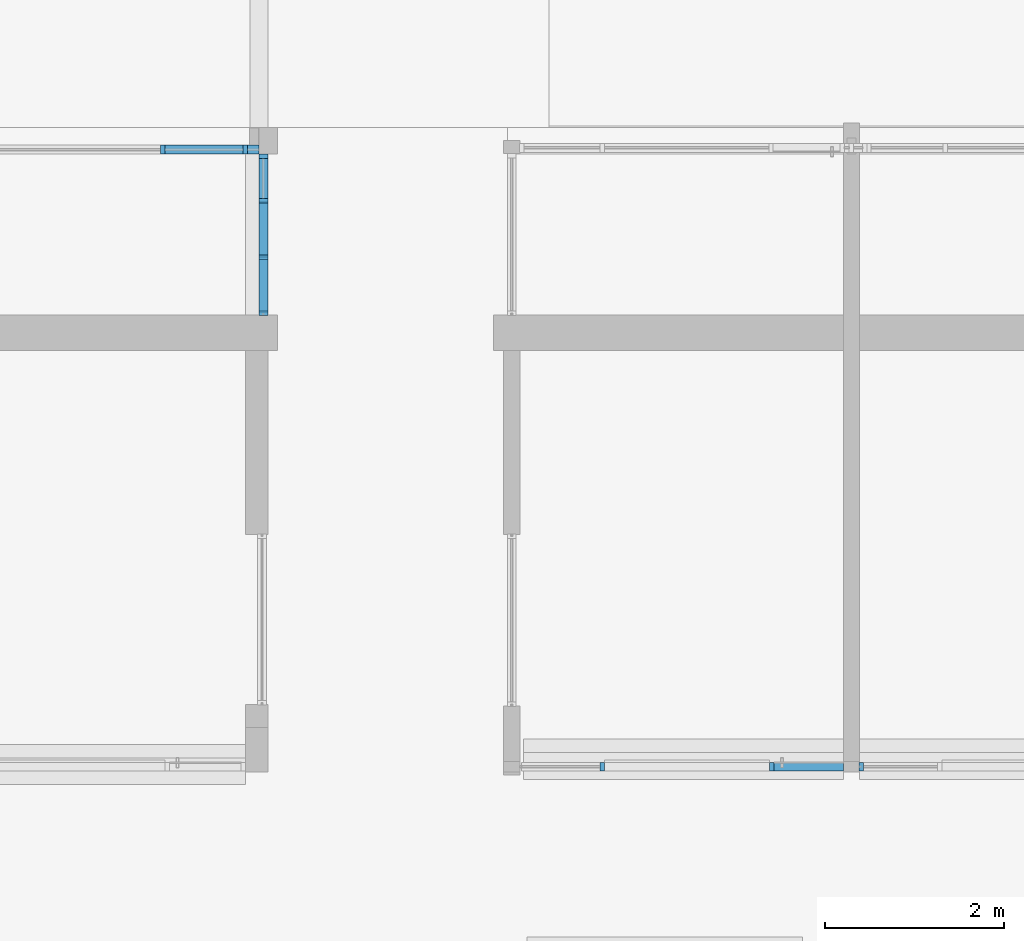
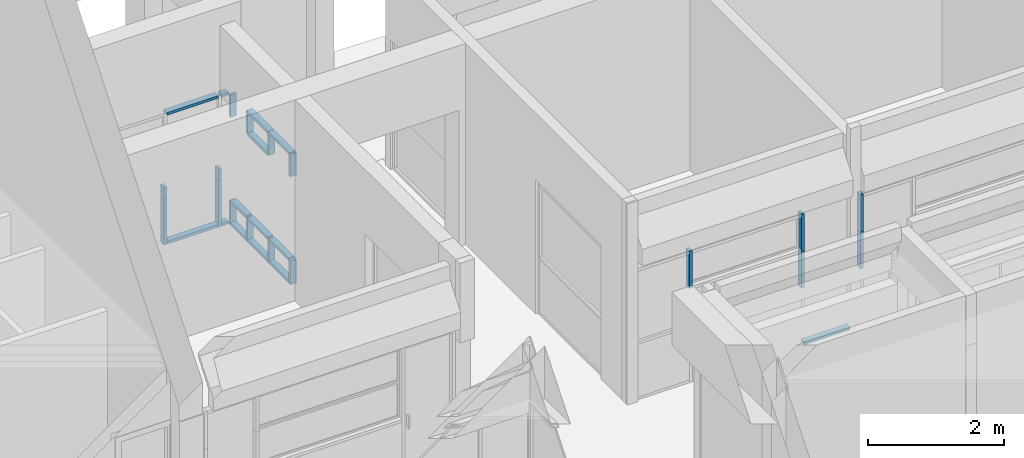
# One storey, part 18 of 117: 31 members, 4 elements without a shape of their own.
"""IFC4 building model written with IfcOpenShell, lengths in metres."""

from ifc_helpers import new_model, entity, si_unit, converted_unit, derived_unit, direction, frame, origin, place, context, subcontext, project, spatial, indexed_curve, outline, extrude, source, transform, mapped, material, type_object, type_shapes, element, aggregate, save


model = new_model("IFC4")

# Units and contexts
model_context = context("Model", 3, precision=1e-05, world=origin(), true_north=direction((6.123031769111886e-17, 1.0)))
body_context = subcontext(model_context, "Body", "Model", "MODEL_VIEW")
ifc_project = project(units=[si_unit("LENGTHUNIT", "METRE"), si_unit("AREAUNIT", "SQUARE_METRE"), si_unit("VOLUMEUNIT", "CUBIC_METRE"), converted_unit("PLANEANGLEUNIT", "DEGREE", entity("IfcRatioMeasure", 0.017453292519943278), si_unit("PLANEANGLEUNIT", "RADIAN"), dimensions=[0, 0, 0, 0, 0, 0, 0]), si_unit("MASSUNIT", "GRAM", prefix="KILO"), derived_unit("MASSDENSITYUNIT", [(si_unit("MASSUNIT", "GRAM", prefix="KILO"), 1), (si_unit("LENGTHUNIT", "METRE"), -3)]), derived_unit("MOMENTOFINERTIAUNIT", [(si_unit("LENGTHUNIT", "METRE"), 4)]), si_unit("TIMEUNIT", "SECOND"), si_unit("FREQUENCYUNIT", "HERTZ"), si_unit("THERMODYNAMICTEMPERATUREUNIT", "DEGREE_CELSIUS"), derived_unit("THERMALTRANSMITTANCEUNIT", [(si_unit("MASSUNIT", "GRAM", prefix="KILO"), 1), (si_unit("THERMODYNAMICTEMPERATUREUNIT", "KELVIN"), -1), (si_unit("TIMEUNIT", "SECOND"), -3)]), derived_unit("VOLUMETRICFLOWRATEUNIT", [(si_unit("LENGTHUNIT", "METRE"), 3), (si_unit("TIMEUNIT", "SECOND"), -1)]), derived_unit("MASSFLOWRATEUNIT", [(si_unit("MASSUNIT", "GRAM", prefix="KILO"), 1), (si_unit("TIMEUNIT", "SECOND"), -1)]), derived_unit("ROTATIONALFREQUENCYUNIT", [(si_unit("TIMEUNIT", "SECOND"), -1)]), si_unit("ELECTRICCURRENTUNIT", "AMPERE"), si_unit("ELECTRICVOLTAGEUNIT", "VOLT"), si_unit("POWERUNIT", "WATT"), si_unit("FORCEUNIT", "NEWTON", prefix="KILO"), si_unit("ILLUMINANCEUNIT", "LUX"), si_unit("LUMINOUSFLUXUNIT", "LUMEN"), si_unit("LUMINOUSINTENSITYUNIT", "CANDELA"), derived_unit("USERDEFINED", [(si_unit("MASSUNIT", "GRAM", prefix="KILO"), -1), (si_unit("LENGTHUNIT", "METRE"), -2), (si_unit("TIMEUNIT", "SECOND"), 3), (si_unit("LUMINOUSFLUXUNIT", "LUMEN"), 1)]), derived_unit("SOUNDPOWERUNIT", [(si_unit("MASSUNIT", "GRAM", prefix="KILO"), 1), (si_unit("LENGTHUNIT", "METRE"), 2), (si_unit("TIMEUNIT", "SECOND"), -3)]), derived_unit("SOUNDPRESSUREUNIT", [(si_unit("MASSUNIT", "GRAM", prefix="KILO"), 1), (si_unit("LENGTHUNIT", "METRE"), -1), (si_unit("TIMEUNIT", "SECOND"), -2)]), derived_unit("LINEARVELOCITYUNIT", [(si_unit("LENGTHUNIT", "METRE"), 1), (si_unit("TIMEUNIT", "SECOND"), -1)]), si_unit("PRESSUREUNIT", "PASCAL"), derived_unit("USERDEFINED", [(si_unit("LENGTHUNIT", "METRE"), -2), (si_unit("MASSUNIT", "GRAM", prefix="KILO"), 1), (si_unit("TIMEUNIT", "SECOND"), -2)]), derived_unit("LINEARFORCEUNIT", [(si_unit("MASSUNIT", "GRAM", prefix="KILO"), 1), (si_unit("LENGTHUNIT", "METRE"), 1), (si_unit("TIMEUNIT", "SECOND"), -2), (si_unit("LENGTHUNIT", "METRE"), -1)]), derived_unit("PLANARFORCEUNIT", [(si_unit("MASSUNIT", "GRAM", prefix="KILO"), 1), (si_unit("LENGTHUNIT", "METRE"), 1), (si_unit("TIMEUNIT", "SECOND"), -2), (si_unit("LENGTHUNIT", "METRE"), -2)])], contexts=[model_context])

# Site, building, storey
site_placement = place(None, origin())
site = spatial("IfcSite", under=ifc_project, at=site_placement, Name="Superficie", CompositionType="ELEMENT")
building_placement = place(site_placement, origin())
building = spatial("IfcBuilding", under=site, at=building_placement, CompositionType="ELEMENT")
storey_placement = place(building_placement, origin())
storey = spatial("IfcBuildingStorey", under=building, at=storey_placement, Name="Nivel 0", CompositionType="ELEMENT", Elevation=0.0)

# Curtain wall, members
curtain_wall_type = type_object("IfcCurtainWallType", Name="Muro cortina:Muro cortina - simple", PredefinedType="NOTDEFINED")
curtain_wall_1_placement = place(storey_placement, origin())
curtain_wall_1 = element("IfcCurtainWall", 1, at=curtain_wall_1_placement, inside=storey, type_object=curtain_wall_type, Name="Muro cortina:Muro cortina - simple", ObjectType="Muro cortina:Muro cortina - simple", PredefinedType="NOTDEFINED")
ifc_material = material(Name="<Unnamed>")
member_type_1 = type_object("IfcMemberType", Name="Montante rectangular:Montante rectangular - 5 x 10 cm", PredefinedType="MULLION", material=ifc_material)
shared_shape_1 = source(origin(), body_context, "Body", "SweptSolid", [
    extrude(outline(indexed_curve([(-0.05, -0.025), (0.05, -0.025), (0.05, 0.025), (-0.05, 0.025), (-0.05, -0.025)], self_intersect=False)), frame((0.0, 0.0, -0.6649999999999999), z_axis=(0.0, 0.0, 1.0), x_axis=(0.0, -1.0, 0.0)), (0.0, 0.0, 1.0), 0.6649999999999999),
])
type_shapes(member_type_1, [shared_shape_1])
member_1_placement = place(curtain_wall_1_placement, frame((-12.50320098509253, 5.7158292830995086, 1.0200000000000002), z_axis=(0.0, 0.0, -1.0), x_axis=(1.0, 0.0, 0.0)))
member_1 = element("IfcMember", 2, at=member_1_placement, type_object=member_type_1, material=ifc_material, Name="Montante rectangular:Montante rectangular - 5 x 10 cm", ObjectType="Montante rectangular:Montante rectangular - 5 x 10 cm", PredefinedType="MULLION", context=body_context, shape_type="MappedRepresentation", body=[
    mapped(shared_shape_1, transform((0.0, 0.0, 0.0), scale=1.0)),
])
member_type_2 = type_object("IfcMemberType", Name="Montante rectangular:Montante rectangular - 5 x 10 cm", PredefinedType="MULLION", material=ifc_material)
shared_shape_2 = source(origin(), body_context, "Body", "SweptSolid", [
    extrude(outline(indexed_curve([(-0.05, -0.025), (0.05, -0.025), (0.05, 0.025), (-0.05, 0.025), (-0.05, -0.025)], self_intersect=False)), frame((0.0, 0.0, -0.6649999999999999), z_axis=(0.0, 0.0, 1.0), x_axis=(0.0, -1.0, 0.0)), (0.0, 0.0, 1.0), 0.6649999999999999),
])
type_shapes(member_type_2, [shared_shape_2])
member_2_placement = place(curtain_wall_1_placement, frame((-14.403200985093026, 5.715829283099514, 1.685), z_axis=(0.0, 0.0, -1.0), x_axis=(1.0, 0.0, 0.0)))
member_2 = element("IfcMember", 3, at=member_2_placement, type_object=member_type_2, material=ifc_material, Name="Montante rectangular:Montante rectangular - 5 x 10 cm", ObjectType="Montante rectangular:Montante rectangular - 5 x 10 cm", PredefinedType="MULLION", context=body_context, shape_type="MappedRepresentation", body=[
    mapped(shared_shape_2, transform((0.0, 0.0, 0.0), scale=1.0)),
])
member_3_placement = place(curtain_wall_1_placement, frame((-12.50320098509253, 5.7158292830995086, 1.685), z_axis=(0.0, 0.0, -1.0), x_axis=(1.0, 0.0, 0.0)))
member_3 = element("IfcMember", 4, at=member_3_placement, type_object=member_type_2, material=ifc_material, Name="Montante rectangular:Montante rectangular - 5 x 10 cm", ObjectType="Montante rectangular:Montante rectangular - 5 x 10 cm", PredefinedType="MULLION", context=body_context, shape_type="MappedRepresentation", body=[
    mapped(shared_shape_2, transform((0.0, 0.0, 0.0), scale=1.0)),
])
member_type_3 = type_object("IfcMemberType", Name="Montante rectangular:Montante rectangular - 5 x 10 cm", PredefinedType="MULLION", material=ifc_material)
shared_shape_3 = source(origin(), body_context, "Body", "SweptSolid", [
    extrude(outline(indexed_curve([(-0.05, -0.025), (0.05, -0.025), (0.05, 0.025), (-0.05, 0.025), (-0.05, -0.025)], self_intersect=False)), frame((0.0, 0.0, -0.7749999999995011), z_axis=(0.0, 0.0, 1.0), x_axis=(0.0, -1.0, 0.0)), (0.0, 0.0, 1.0), 0.7749999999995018),
])
type_shapes(member_type_3, [shared_shape_3])
member_4_placement = place(curtain_wall_1_placement, frame((-11.703200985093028, 5.715829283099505, 0.019999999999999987), z_axis=(1.0, 0.0, 0.0), x_axis=(0.0, 0.0, 1.0)))
member_4 = element("IfcMember", 5, at=member_4_placement, type_object=member_type_3, material=ifc_material, Name="Montante rectangular:Montante rectangular - 5 x 10 cm", ObjectType="Montante rectangular:Montante rectangular - 5 x 10 cm", PredefinedType="MULLION", context=body_context, shape_type="MappedRepresentation", body=[
    mapped(shared_shape_3, transform((0.0, 0.0, 0.0), scale=1.0)),
])
aggregate(curtain_wall_1, [member_4, member_2, member_3, member_1])

curtain_wall_2_placement = place(storey_placement, origin())
curtain_wall_2 = element("IfcCurtainWall", 6, at=curtain_wall_2_placement, inside=storey, type_object=curtain_wall_type, Name="Muro cortina:Muro cortina - simple", ObjectType="Muro cortina:Muro cortina - simple", PredefinedType="NOTDEFINED")
member_type_4 = type_object("IfcMemberType", Name="Montante rectangular:Montante rectangular - 5 x 10 cm", PredefinedType="MULLION", material=ifc_material)
shared_shape_4 = source(origin(), body_context, "Body", "SweptSolid", [
    extrude(outline(indexed_curve([(-0.05, -0.025), (0.05, -0.025), (0.05, 0.025), (-0.05, 0.025), (-0.05, -0.025)], self_intersect=False)), frame((0.0, 0.0, -0.6649999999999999), z_axis=(0.0, 0.0, 1.0), x_axis=(0.0, -1.0, 0.0)), (0.0, 0.0, 1.0), 0.6649999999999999),
])
type_shapes(member_type_4, [shared_shape_4])
member_5_placement = place(curtain_wall_2_placement, frame((-11.503200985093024, 5.715829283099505, 1.685), z_axis=(0.0, 0.0, -1.0), x_axis=(1.0, 0.0, 0.0)))
member_5 = element("IfcMember", 7, at=member_5_placement, type_object=member_type_4, material=ifc_material, Name="Montante rectangular:Montante rectangular - 5 x 10 cm", ObjectType="Montante rectangular:Montante rectangular - 5 x 10 cm", PredefinedType="MULLION", context=body_context, shape_type="MappedRepresentation", body=[
    mapped(shared_shape_4, transform((0.0, 0.0, 0.0), scale=1.0)),
])
member_type_5 = type_object("IfcMemberType", Name="Montante rectangular:Montante rectangular - 5 x 10 cm", PredefinedType="MULLION", material=ifc_material)
shared_shape_5 = source(origin(), body_context, "Body", "SweptSolid", [
    extrude(outline(indexed_curve([(-0.05, -0.025), (0.05, -0.025), (0.05, 0.025), (-0.05, 0.025), (-0.05, -0.025)], self_intersect=False)), frame((0.0, 0.0, -0.6649999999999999), z_axis=(0.0, 0.0, 1.0), x_axis=(0.0, -1.0, 0.0)), (0.0, 0.0, 1.0), 0.6649999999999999),
])
type_shapes(member_type_5, [shared_shape_5])
member_6_placement = place(curtain_wall_2_placement, frame((-11.503200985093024, 5.715829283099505, 1.0200000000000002), z_axis=(0.0, 0.0, -1.0), x_axis=(1.0, 0.0, 0.0)))
member_6 = element("IfcMember", 8, at=member_6_placement, type_object=member_type_5, material=ifc_material, Name="Montante rectangular:Montante rectangular - 5 x 10 cm", ObjectType="Montante rectangular:Montante rectangular - 5 x 10 cm", PredefinedType="MULLION", context=body_context, shape_type="MappedRepresentation", body=[
    mapped(shared_shape_5, transform((0.0, 0.0, 0.0), scale=1.0)),
])
aggregate(curtain_wall_2, [member_5, member_6])

# Curtain wall, member
curtain_wall_3_placement = place(storey_placement, origin())
curtain_wall_3 = element("IfcCurtainWall", 9, at=curtain_wall_3_placement, inside=storey, type_object=curtain_wall_type, Name="Muro cortina:Muro cortina - simple", ObjectType="Muro cortina:Muro cortina - simple", PredefinedType="NOTDEFINED")
member_type_6 = type_object("IfcMemberType", Name="Montante rectangular:Montante rectangular - 5 x 10 cm", PredefinedType="MULLION", material=ifc_material)
shared_shape_6 = source(origin(), body_context, "Body", "SweptSolid", [
    extrude(outline(indexed_curve([(-0.05, -0.025), (0.05, -0.025), (0.05, 0.025), (-0.05, 0.025), (-0.05, -0.025)], self_intersect=False)), frame((0.0, 0.0, -0.19999999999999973), z_axis=(0.0, 0.0, 1.0), x_axis=(0.0, -1.0, 0.0)), (0.0, 0.0, 1.0), 0.19999999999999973),
])
type_shapes(member_type_6, [shared_shape_6])
member_7_placement = place(curtain_wall_3_placement, frame((-19.318200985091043, 12.62082928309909, 0.8299999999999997), z_axis=(0.0, 0.0, -1.0), x_axis=(-1.0, 0.0, 0.0)))
member_7 = element("IfcMember", 10, at=member_7_placement, type_object=member_type_6, material=ifc_material, Name="Montante rectangular:Montante rectangular - 5 x 10 cm", ObjectType="Montante rectangular:Montante rectangular - 5 x 10 cm", PredefinedType="MULLION", context=body_context, shape_type="MappedRepresentation", body=[
    mapped(shared_shape_6, transform((0.0, 0.0, 0.0), scale=1.0)),
])

# Curtain wall, members
curtain_wall_4_placement = place(storey_placement, origin())
curtain_wall_4 = element("IfcCurtainWall", 11, at=curtain_wall_4_placement, inside=storey, type_object=curtain_wall_type, Name="Muro cortina:Muro cortina - simple", ObjectType="Muro cortina:Muro cortina - simple", PredefinedType="NOTDEFINED")
member_type_7 = type_object("IfcMemberType", Name="Montante rectangular:Montante rectangular - 5 x 10 cm", PredefinedType="MULLION", material=ifc_material)
shared_shape_7 = source(origin(), body_context, "Body", "SweptSolid", [
    extrude(outline(indexed_curve([(-0.05, -0.025), (0.05, -0.025), (0.05, 0.025), (-0.05, 0.025), (-0.05, -0.025)], self_intersect=False)), frame((0.0, 0.0, -0.4250000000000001), z_axis=(0.0, 0.0, 1.0), x_axis=(0.0, -1.0, 0.0)), (0.0, 0.0, 1.0), 0.4250000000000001),
])
type_shapes(member_type_7, [shared_shape_7])
member_8_placement = place(curtain_wall_4_placement, frame((-18.193200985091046, 10.790829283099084, -0.005000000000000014), z_axis=(0.0, 0.0, -1.0), x_axis=(0.0, 1.0, 0.0)))
member_8 = element("IfcMember", 12, at=member_8_placement, type_object=member_type_7, material=ifc_material, Name="Montante rectangular:Montante rectangular - 5 x 10 cm", ObjectType="Montante rectangular:Montante rectangular - 5 x 10 cm", PredefinedType="MULLION", context=body_context, shape_type="MappedRepresentation", body=[
    mapped(shared_shape_7, transform((0.0, 0.0, 0.0), scale=1.0)),
])
member_9_placement = place(curtain_wall_4_placement, frame((-18.193200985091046, 11.419039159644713, -0.005000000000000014), z_axis=(0.0, 0.0, -1.0), x_axis=(0.0, 1.0, 0.0)))
member_9 = element("IfcMember", 13, at=member_9_placement, type_object=member_type_7, material=ifc_material, Name="Montante rectangular:Montante rectangular - 5 x 10 cm", ObjectType="Montante rectangular:Montante rectangular - 5 x 10 cm", PredefinedType="MULLION", context=body_context, shape_type="MappedRepresentation", body=[
    mapped(shared_shape_7, transform((0.0, 0.0, 0.0), scale=1.0)),
])
member_10_placement = place(curtain_wall_4_placement, frame((-18.193200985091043, 12.047249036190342, -0.005000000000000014), z_axis=(0.0, 0.0, -1.0), x_axis=(0.0, 1.0, 0.0)))
member_10 = element("IfcMember", 14, at=member_10_placement, type_object=member_type_7, material=ifc_material, Name="Montante rectangular:Montante rectangular - 5 x 10 cm", ObjectType="Montante rectangular:Montante rectangular - 5 x 10 cm", PredefinedType="MULLION", context=body_context, shape_type="MappedRepresentation", body=[
    mapped(shared_shape_7, transform((0.0, 0.0, 0.0), scale=1.0)),
])
member_type_8 = type_object("IfcMemberType", Name="Montante rectangular:Montante rectangular - 5 x 10 cm", PredefinedType="MULLION", material=ifc_material)
shared_shape_8 = source(origin(), body_context, "Body", "SweptSolid", [
    extrude(outline(indexed_curve([(-0.05, -0.025), (0.05, -0.025), (0.05, 0.025), (-0.05, 0.025), (-0.05, -0.025)], self_intersect=False)), frame((0.0, 0.0, -0.5782098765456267), z_axis=(0.0, 0.0, 1.0), x_axis=(0.0, -1.0, 0.0)), (0.0, 0.0, 1.0), 0.5782098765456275),
])
type_shapes(member_type_8, [shared_shape_8])
member_11_placement = place(curtain_wall_4_placement, frame((-18.193200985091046, 11.394039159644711, 0.019999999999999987), z_axis=(0.0, 1.0, 0.0), x_axis=(0.0, 0.0, 1.0)))
member_11 = element("IfcMember", 15, at=member_11_placement, type_object=member_type_8, material=ifc_material, Name="Montante rectangular:Montante rectangular - 5 x 10 cm", ObjectType="Montante rectangular:Montante rectangular - 5 x 10 cm", PredefinedType="MULLION", context=body_context, shape_type="MappedRepresentation", body=[
    mapped(shared_shape_8, transform((0.0, 0.0, 0.0), scale=1.0)),
])
member_12_placement = place(curtain_wall_4_placement, frame((-18.193200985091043, 12.022249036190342, 0.019999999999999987), z_axis=(0.0, 1.0, 0.0), x_axis=(0.0, 0.0, 1.0)))
member_12 = element("IfcMember", 16, at=member_12_placement, type_object=member_type_8, material=ifc_material, Name="Montante rectangular:Montante rectangular - 5 x 10 cm", ObjectType="Montante rectangular:Montante rectangular - 5 x 10 cm", PredefinedType="MULLION", context=body_context, shape_type="MappedRepresentation", body=[
    mapped(shared_shape_8, transform((0.0, 0.0, 0.0), scale=1.0)),
])
member_13_placement = place(curtain_wall_4_placement, frame((-18.193200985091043, 12.022249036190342, 1.93), z_axis=(0.0, 1.0, 0.0), x_axis=(0.0, 0.0, 1.0)))
member_13 = element("IfcMember", 17, at=member_13_placement, type_object=member_type_8, material=ifc_material, Name="Montante rectangular:Montante rectangular - 5 x 10 cm", ObjectType="Montante rectangular:Montante rectangular - 5 x 10 cm", PredefinedType="MULLION", context=body_context, shape_type="MappedRepresentation", body=[
    mapped(shared_shape_8, transform((0.0, 0.0, 0.0), scale=1.0)),
])
member_14_placement = place(curtain_wall_4_placement, frame((-18.193200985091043, 12.022249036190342, 0.4200000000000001), z_axis=(0.0, 1.0, 0.0), x_axis=(0.0, 0.0, 1.0)))
member_14 = element("IfcMember", 18, at=member_14_placement, type_object=member_type_8, material=ifc_material, Name="Montante rectangular:Montante rectangular - 5 x 10 cm", ObjectType="Montante rectangular:Montante rectangular - 5 x 10 cm", PredefinedType="MULLION", context=body_context, shape_type="MappedRepresentation", body=[
    mapped(shared_shape_8, transform((0.0, 0.0, 0.0), scale=1.0)),
])
member_15_placement = place(curtain_wall_4_placement, frame((-18.193200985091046, 11.394039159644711, 0.4200000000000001), z_axis=(0.0, 1.0, 0.0), x_axis=(0.0, 0.0, 1.0)))
member_15 = element("IfcMember", 19, at=member_15_placement, type_object=member_type_8, material=ifc_material, Name="Montante rectangular:Montante rectangular - 5 x 10 cm", ObjectType="Montante rectangular:Montante rectangular - 5 x 10 cm", PredefinedType="MULLION", context=body_context, shape_type="MappedRepresentation", body=[
    mapped(shared_shape_8, transform((0.0, 0.0, 0.0), scale=1.0)),
])
member_type_9 = type_object("IfcMemberType", Name="Montante rectangular:Montante rectangular - 5 x 10 cm", PredefinedType="MULLION", material=ifc_material)
shared_shape_9 = source(origin(), body_context, "Body", "SweptSolid", [
    extrude(outline(indexed_curve([(-0.05, -0.025), (0.05, -0.025), (0.05, 0.025), (-0.05, 0.025), (-0.05, -0.025)], self_intersect=False)), frame((-0.025, 0.0, -0.4250000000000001), z_axis=(0.0, 0.0, 1.0), x_axis=(0.0, -1.0, 0.0)), (0.0, 0.0, 1.0), 0.4250000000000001),
])
type_shapes(member_type_9, [shared_shape_9])
member_16_placement = place(curtain_wall_4_placement, frame((-18.193200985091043, 12.570829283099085, -0.005000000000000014), z_axis=(0.0, 0.0, -1.0), x_axis=(0.0, 1.0, 0.0)))
member_16 = element("IfcMember", 20, at=member_16_placement, type_object=member_type_9, material=ifc_material, Name="Montante rectangular:Montante rectangular - 5 x 10 cm", ObjectType="Montante rectangular:Montante rectangular - 5 x 10 cm", PredefinedType="MULLION", context=body_context, shape_type="MappedRepresentation", body=[
    mapped(shared_shape_9, transform((0.0, 0.0, 0.0), scale=1.0)),
])
member_type_10 = type_object("IfcMemberType", Name="Montante rectangular:Montante rectangular - 5 x 10 cm", PredefinedType="MULLION", material=ifc_material)
shared_shape_10 = source(origin(), body_context, "Body", "SweptSolid", [
    extrude(outline(indexed_curve([(-0.05, -0.025), (0.05, -0.025), (0.05, 0.025), (-0.05, 0.025), (-0.05, -0.025)], self_intersect=False)), frame((-0.025, 0.0, -0.6282098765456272), z_axis=(0.0, 0.0, 1.0), x_axis=(0.0, -1.0, 0.0)), (0.0, 0.0, 1.0), 0.6282098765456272),
])
type_shapes(member_type_10, [shared_shape_10])
member_17_placement = place(curtain_wall_4_placement, frame((-18.193200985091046, 11.419039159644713, 2.35), z_axis=(0.0, 1.0, 0.0), x_axis=(0.0, 0.0, 1.0)))
member_17 = element("IfcMember", 21, at=member_17_placement, type_object=member_type_10, material=ifc_material, Name="Montante rectangular:Montante rectangular - 5 x 10 cm", ObjectType="Montante rectangular:Montante rectangular - 5 x 10 cm", PredefinedType="MULLION", context=body_context, shape_type="MappedRepresentation", body=[
    mapped(shared_shape_10, transform((0.0, 0.0, 0.0), scale=1.0)),
])
member_type_11 = type_object("IfcMemberType", Name="Montante rectangular:Montante rectangular - 5 x 10 cm", PredefinedType="MULLION", material=ifc_material)
shared_shape_11 = source(origin(), body_context, "Body", "SweptSolid", [
    extrude(outline(indexed_curve([(-0.05, -0.025), (0.05, -0.025), (0.05, 0.025), (-0.05, 0.025), (-0.05, -0.025)], self_intersect=False)), frame((-0.025, 0.0, -0.6282098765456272), z_axis=(0.0, 0.0, 1.0), x_axis=(0.0, -1.0, 0.0)), (0.0, 0.0, 1.0), 0.6282098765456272),
])
type_shapes(member_type_11, [shared_shape_11])
member_18_placement = place(curtain_wall_4_placement, frame((-18.193200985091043, 12.047249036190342, 2.35), z_axis=(0.0, 1.0, 0.0), x_axis=(0.0, 0.0, 1.0)))
member_18 = element("IfcMember", 22, at=member_18_placement, type_object=member_type_11, material=ifc_material, Name="Montante rectangular:Montante rectangular - 5 x 10 cm", ObjectType="Montante rectangular:Montante rectangular - 5 x 10 cm", PredefinedType="MULLION", context=body_context, shape_type="MappedRepresentation", body=[
    mapped(shared_shape_11, transform((0.0, 0.0, 0.0), scale=1.0)),
])
member_type_12 = type_object("IfcMemberType", Name="Montante rectangular:Montante rectangular - 5 x 10 cm", PredefinedType="MULLION", material=ifc_material)
shared_shape_12 = source(origin(), body_context, "Body", "SweptSolid", [
    extrude(outline(indexed_curve([(-0.05, -0.025), (0.05, -0.025), (0.05, 0.025), (-0.05, 0.025), (-0.05, -0.025)], self_intersect=False)), frame((0.0, 0.0, -0.44858024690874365), z_axis=(0.0, 0.0, 1.0), x_axis=(0.0, -1.0, 0.0)), (0.0, 0.0, 1.0), 0.44858024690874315),
])
type_shapes(member_type_12, [shared_shape_12])
member_19_placement = place(curtain_wall_4_placement, frame((-18.193200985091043, 12.520829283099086, 0.019999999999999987), z_axis=(0.0, 1.0, 0.0), x_axis=(0.0, 0.0, 1.0)))
member_19 = element("IfcMember", 23, at=member_19_placement, type_object=member_type_12, material=ifc_material, Name="Montante rectangular:Montante rectangular - 5 x 10 cm", ObjectType="Montante rectangular:Montante rectangular - 5 x 10 cm", PredefinedType="MULLION", context=body_context, shape_type="MappedRepresentation", body=[
    mapped(shared_shape_12, transform((0.0, 0.0, 0.0), scale=1.0)),
])
member_20_placement = place(curtain_wall_4_placement, frame((-18.193200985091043, 12.520829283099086, 0.4200000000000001), z_axis=(0.0, 1.0, 0.0), x_axis=(0.0, 0.0, 1.0)))
member_20 = element("IfcMember", 24, at=member_20_placement, type_object=member_type_12, material=ifc_material, Name="Montante rectangular:Montante rectangular - 5 x 10 cm", ObjectType="Montante rectangular:Montante rectangular - 5 x 10 cm", PredefinedType="MULLION", context=body_context, shape_type="MappedRepresentation", body=[
    mapped(shared_shape_12, transform((0.0, 0.0, 0.0), scale=1.0)),
])
member_type_13 = type_object("IfcMemberType", Name="Montante rectangular:Montante rectangular - 5 x 10 cm", PredefinedType="MULLION", material=ifc_material)
shared_shape_13 = source(origin(), body_context, "Body", "SweptSolid", [
    extrude(outline(indexed_curve([(-0.05, -0.025), (0.05, -0.025), (0.05, 0.025), (-0.05, 0.025), (-0.05, -0.025)], self_intersect=False)), frame((0.0, 0.0, -0.4), z_axis=(0.0, 0.0, 1.0), x_axis=(0.0, -1.0, 0.0)), (0.0, 0.0, 1.0), 0.4),
])
type_shapes(member_type_13, [shared_shape_13])
member_21_placement = place(curtain_wall_4_placement, frame((-18.193200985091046, 10.790829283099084, 1.93), z_axis=(0.0, 0.0, -1.0), x_axis=(0.0, 1.0, 0.0)))
member_21 = element("IfcMember", 25, at=member_21_placement, type_object=member_type_13, material=ifc_material, Name="Montante rectangular:Montante rectangular - 5 x 10 cm", ObjectType="Montante rectangular:Montante rectangular - 5 x 10 cm", PredefinedType="MULLION", context=body_context, shape_type="MappedRepresentation", body=[
    mapped(shared_shape_13, transform((0.0, 0.0, 0.0), scale=1.0)),
])
member_type_14 = type_object("IfcMemberType", Name="Montante rectangular:Montante rectangular - 5 x 10 cm", PredefinedType="MULLION", material=ifc_material)
shared_shape_14 = source(origin(), body_context, "Body", "SweptSolid", [
    extrude(outline(indexed_curve([(-0.05, -0.025), (0.05, -0.025), (0.05, 0.025), (-0.05, 0.025), (-0.05, -0.025)], self_intersect=False)), frame((-0.025, 0.0, -0.4), z_axis=(0.0, 0.0, 1.0), x_axis=(0.0, -1.0, 0.0)), (0.0, 0.0, 1.0), 0.4),
])
type_shapes(member_type_14, [shared_shape_14])
member_22_placement = place(curtain_wall_4_placement, frame((-18.193200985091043, 12.570829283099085, 1.93), z_axis=(0.0, 0.0, -1.0), x_axis=(0.0, 1.0, 0.0)))
member_22 = element("IfcMember", 26, at=member_22_placement, type_object=member_type_14, material=ifc_material, Name="Montante rectangular:Montante rectangular - 5 x 10 cm", ObjectType="Montante rectangular:Montante rectangular - 5 x 10 cm", PredefinedType="MULLION", context=body_context, shape_type="MappedRepresentation", body=[
    mapped(shared_shape_14, transform((0.0, 0.0, 0.0), scale=1.0)),
])
member_type_15 = type_object("IfcMemberType", Name="Montante rectangular:Montante rectangular - 5 x 10 cm", PredefinedType="MULLION", material=ifc_material)
shared_shape_15 = source(origin(), body_context, "Body", "SweptSolid", [
    extrude(outline(indexed_curve([(-0.05, -0.025), (0.05, -0.025), (0.05, 0.025), (-0.05, 0.025), (-0.05, -0.025)], self_intersect=False)), frame((0.0, 0.0, -0.4), z_axis=(0.0, 0.0, 1.0), x_axis=(0.0, -1.0, 0.0)), (0.0, 0.0, 1.0), 0.4),
])
type_shapes(member_type_15, [shared_shape_15])
member_23_placement = place(curtain_wall_4_placement, frame((-18.193200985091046, 11.419039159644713, 1.93), z_axis=(0.0, 0.0, -1.0), x_axis=(0.0, 1.0, 0.0)))
member_23 = element("IfcMember", 27, at=member_23_placement, type_object=member_type_15, material=ifc_material, Name="Montante rectangular:Montante rectangular - 5 x 10 cm", ObjectType="Montante rectangular:Montante rectangular - 5 x 10 cm", PredefinedType="MULLION", context=body_context, shape_type="MappedRepresentation", body=[
    mapped(shared_shape_15, transform((0.0, 0.0, 0.0), scale=1.0)),
])
member_24_placement = place(curtain_wall_4_placement, frame((-18.193200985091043, 12.047249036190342, 1.93), z_axis=(0.0, 0.0, -1.0), x_axis=(0.0, 1.0, 0.0)))
member_24 = element("IfcMember", 28, at=member_24_placement, type_object=member_type_15, material=ifc_material, Name="Montante rectangular:Montante rectangular - 5 x 10 cm", ObjectType="Montante rectangular:Montante rectangular - 5 x 10 cm", PredefinedType="MULLION", context=body_context, shape_type="MappedRepresentation", body=[
    mapped(shared_shape_15, transform((0.0, 0.0, 0.0), scale=1.0)),
])
aggregate(curtain_wall_4, [member_8, member_11, member_16, member_12, member_17, member_18, member_19, member_21, member_22, member_23, member_9, member_13, member_24, member_10, member_20, member_14, member_15])

# Member
member_type_16 = type_object("IfcMemberType", Name="Montante rectangular:Montante rectangular - 5 x 10 cm", PredefinedType="MULLION", material=ifc_material)
shared_shape_16 = source(origin(), body_context, "Body", "SweptSolid", [
    extrude(outline(indexed_curve([(-0.05, -0.025), (0.05, -0.025), (0.05, 0.025), (-0.05, 0.025), (-0.05, -0.025)], self_intersect=False)), frame((0.0, 0.0, -0.8750000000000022), z_axis=(0.0, 0.0, 1.0), x_axis=(0.0, -1.0, 0.0)), (0.0, 0.0, 1.0), 0.8750000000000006),
])
type_shapes(member_type_16, [shared_shape_16])
member_25_placement = place(curtain_wall_3_placement, frame((-19.29320098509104, 12.62082928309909, 0.019999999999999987), z_axis=(-1.0, 0.0, 0.0), x_axis=(0.0, 0.0, 1.0)))
member_25 = element("IfcMember", 29, at=member_25_placement, type_object=member_type_16, material=ifc_material, Name="Montante rectangular:Montante rectangular - 5 x 10 cm", ObjectType="Montante rectangular:Montante rectangular - 5 x 10 cm", PredefinedType="MULLION", context=body_context, shape_type="MappedRepresentation", body=[
    mapped(shared_shape_16, transform((0.0, 0.0, 0.0), scale=1.0)),
])

member_26_placement = place(curtain_wall_3_placement, frame((-19.29320098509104, 12.62082928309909, 2.33), z_axis=(-1.0, 0.0, 0.0), x_axis=(0.0, 0.0, 1.0)))
member_26 = element("IfcMember", 30, at=member_26_placement, type_object=member_type_16, material=ifc_material, Name="Montante rectangular:Montante rectangular - 5 x 10 cm", ObjectType="Montante rectangular:Montante rectangular - 5 x 10 cm", PredefinedType="MULLION", context=body_context, shape_type="MappedRepresentation", body=[
    mapped(shared_shape_16, transform((0.0, 0.0, 0.0), scale=1.0)),
])

member_type_17 = type_object("IfcMemberType", Name="Montante rectangular:Montante rectangular - 5 x 10 cm", PredefinedType="MULLION", material=ifc_material)
shared_shape_17 = source(origin(), body_context, "Body", "SweptSolid", [
    extrude(outline(indexed_curve([(-0.05, -0.025), (0.05, -0.025), (0.05, 0.025), (-0.05, 0.025), (-0.05, -0.025)], self_intersect=False)), frame((0.0, 0.0, -0.12499999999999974), z_axis=(0.0, 0.0, 1.0), x_axis=(0.0, -1.0, 0.0)), (0.0, 0.0, 1.0), 0.12500000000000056),
])
type_shapes(member_type_17, [shared_shape_17])
member_27_placement = place(curtain_wall_3_placement, frame((-18.368200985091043, 12.620829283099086, 0.019999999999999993), z_axis=(-1.0, 0.0, 0.0), x_axis=(0.0, 0.0, 1.0)))
member_27 = element("IfcMember", 31, at=member_27_placement, type_object=member_type_17, material=ifc_material, Name="Montante rectangular:Montante rectangular - 5 x 10 cm", ObjectType="Montante rectangular:Montante rectangular - 5 x 10 cm", PredefinedType="MULLION", context=body_context, shape_type="MappedRepresentation", body=[
    mapped(shared_shape_17, transform((0.0, 0.0, 0.0), scale=1.0)),
])

member_28_placement = place(curtain_wall_3_placement, frame((-18.368200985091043, 12.620829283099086, 2.33), z_axis=(-1.0, 0.0, 0.0), x_axis=(0.0, 0.0, 1.0)))
member_28 = element("IfcMember", 32, at=member_28_placement, type_object=member_type_17, material=ifc_material, Name="Montante rectangular:Montante rectangular - 5 x 10 cm", ObjectType="Montante rectangular:Montante rectangular - 5 x 10 cm", PredefinedType="MULLION", context=body_context, shape_type="MappedRepresentation", body=[
    mapped(shared_shape_17, transform((0.0, 0.0, 0.0), scale=1.0)),
])

member_type_18 = type_object("IfcMemberType", Name="Montante rectangular:Montante rectangular - 5 x 10 cm", PredefinedType="MULLION", material=ifc_material)
shared_shape_18 = source(origin(), body_context, "Body", "SweptSolid", [
    extrude(outline(indexed_curve([(-0.05, -0.025), (0.05, -0.025), (0.05, 0.025), (-0.05, 0.025), (-0.05, -0.025)], self_intersect=False)), frame((0.0, 0.0, -0.8350000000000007), z_axis=(0.0, 0.0, 1.0), x_axis=(0.0, -1.0, 0.0)), (0.0, 0.0, 1.0), 0.8350000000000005),
])
type_shapes(member_type_18, [shared_shape_18])
member_29_placement = place(curtain_wall_3_placement, frame((-19.318200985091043, 12.62082928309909, -0.005000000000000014), z_axis=(0.0, 0.0, -1.0), x_axis=(-1.0, 0.0, 0.0)))
member_29 = element("IfcMember", 33, at=member_29_placement, type_object=member_type_18, material=ifc_material, Name="Montante rectangular:Montante rectangular - 5 x 10 cm", ObjectType="Montante rectangular:Montante rectangular - 5 x 10 cm", PredefinedType="MULLION", context=body_context, shape_type="MappedRepresentation", body=[
    mapped(shared_shape_18, transform((0.0, 0.0, 0.0), scale=1.0)),
])

member_type_19 = type_object("IfcMemberType", Name="Montante rectangular:Montante rectangular - 5 x 10 cm", PredefinedType="MULLION", material=ifc_material)
shared_shape_19 = source(origin(), body_context, "Body", "SweptSolid", [
    extrude(outline(indexed_curve([(-0.05, -0.025), (0.05, -0.025), (0.05, 0.025), (-0.05, 0.025), (-0.05, -0.025)], self_intersect=False)), frame((0.0, 0.0, -0.2), z_axis=(0.0, 0.0, 1.0), x_axis=(0.0, -1.0, 0.0)), (0.0, 0.0, 1.0), 0.2),
])
type_shapes(member_type_19, [shared_shape_19])
member_30_placement = place(curtain_wall_3_placement, frame((-18.393200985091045, 12.620829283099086, 0.8299999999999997), z_axis=(0.0, 0.0, -1.0), x_axis=(-1.0, 0.0, 0.0)))
member_30 = element("IfcMember", 34, at=member_30_placement, type_object=member_type_19, material=ifc_material, Name="Montante rectangular:Montante rectangular - 5 x 10 cm", ObjectType="Montante rectangular:Montante rectangular - 5 x 10 cm", PredefinedType="MULLION", context=body_context, shape_type="MappedRepresentation", body=[
    mapped(shared_shape_19, transform((0.0, 0.0, 0.0), scale=1.0)),
])

member_type_20 = type_object("IfcMemberType", Name="Montante rectangular:Montante rectangular - 5 x 10 cm", PredefinedType="MULLION", material=ifc_material)
shared_shape_20 = source(origin(), body_context, "Body", "SweptSolid", [
    extrude(outline(indexed_curve([(-0.05, -0.025), (0.05, -0.025), (0.05, 0.025), (-0.05, 0.025), (-0.05, -0.025)], self_intersect=False)), frame((0.0, 0.0, -0.8350000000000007), z_axis=(0.0, 0.0, 1.0), x_axis=(0.0, -1.0, 0.0)), (0.0, 0.0, 1.0), 0.8350000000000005),
])
type_shapes(member_type_20, [shared_shape_20])
member_31_placement = place(curtain_wall_3_placement, frame((-18.393200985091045, 12.620829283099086, -0.005000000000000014), z_axis=(0.0, 0.0, -1.0), x_axis=(-1.0, 0.0, 0.0)))
member_31 = element("IfcMember", 35, at=member_31_placement, type_object=member_type_20, material=ifc_material, Name="Montante rectangular:Montante rectangular - 5 x 10 cm", ObjectType="Montante rectangular:Montante rectangular - 5 x 10 cm", PredefinedType="MULLION", context=body_context, shape_type="MappedRepresentation", body=[
    mapped(shared_shape_20, transform((0.0, 0.0, 0.0), scale=1.0)),
])

aggregate(curtain_wall_3, [member_25, member_27, member_7, member_29, member_26, member_28, member_30, member_31])

save(model, "model.ifc")
